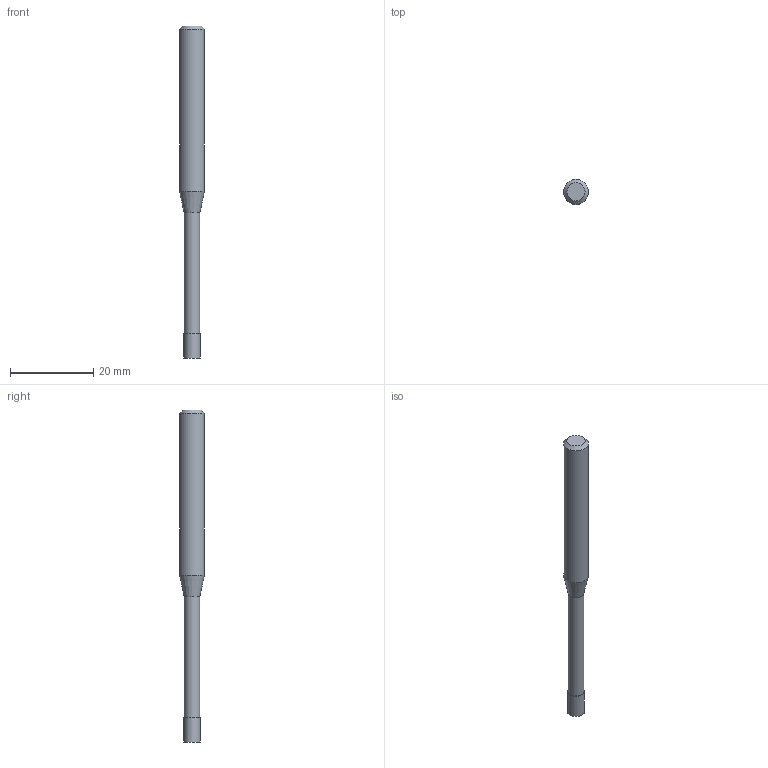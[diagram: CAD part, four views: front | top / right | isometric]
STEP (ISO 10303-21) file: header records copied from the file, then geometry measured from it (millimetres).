
FILE_DESCRIPTION((''),'2;1');
FILE_NAME('C:\Users\nsx150\AppData\Local\Temp\Mastercam 2021\17T8Q8S9EB\TEMP.step','2021-04-21T14:28:47',(''),(''),'STEP Write','Mastercam 2021 ... CNC Software, Inc.','');
FILE_SCHEMA(('AUTOMOTIVE_DESIGN'));
Length unit declared in the file: millimetre
Products named in the file (1): None
Bounding box: 6 x 6 x 80 mm (x, y, z)
Volume: 1624 mm3; surface area: 1308.8 mm2
Topology: 2 solids, 2 shells, 9 faces, 12 edges, 7 vertices
Faces by surface type: plane 4, cylinder 3, cone 2
Full cylindrical faces by diameter (mm): 3.8 x1, 4 x1, 6 x1
Entity records: 211 total; most frequent: DIRECTION 36, CARTESIAN_POINT 25, AXIS2_PLACEMENT_3D 18, ORIENTED_EDGE 14, EDGE_LOOP 14, STYLED_ITEM 12, ADVANCED_FACE 9, FACE_BOUND 8
